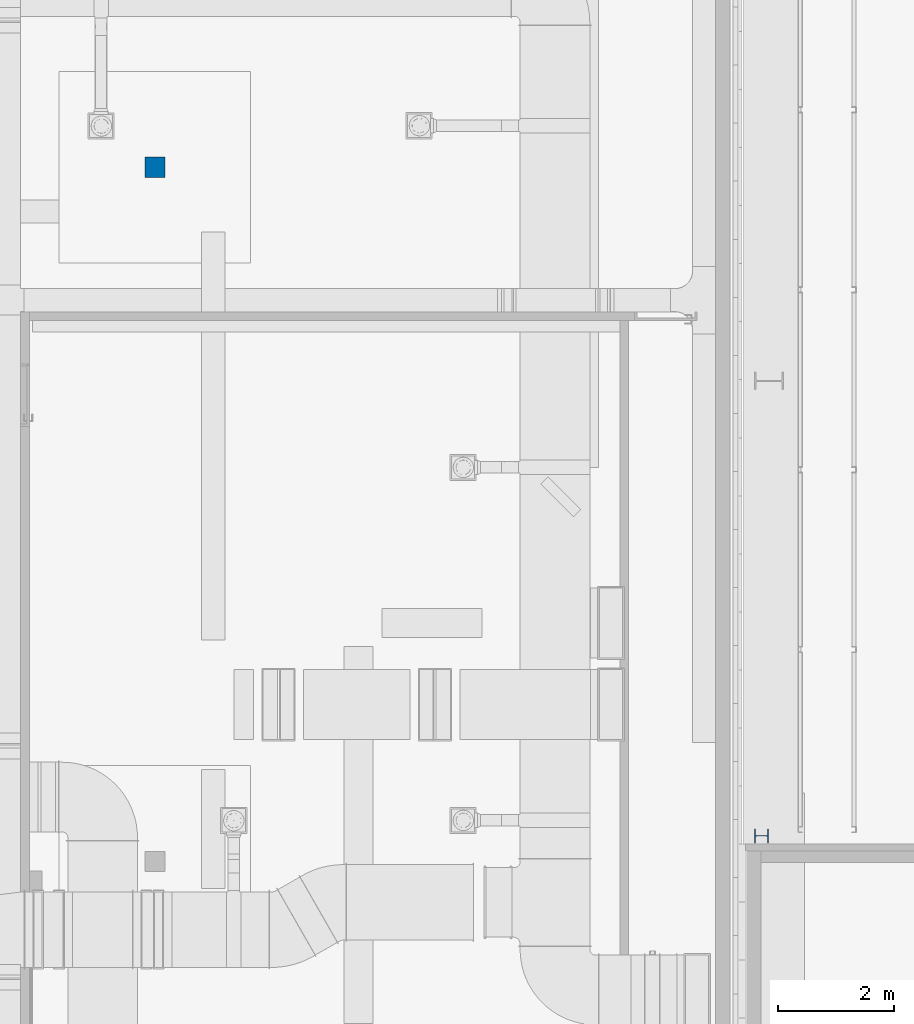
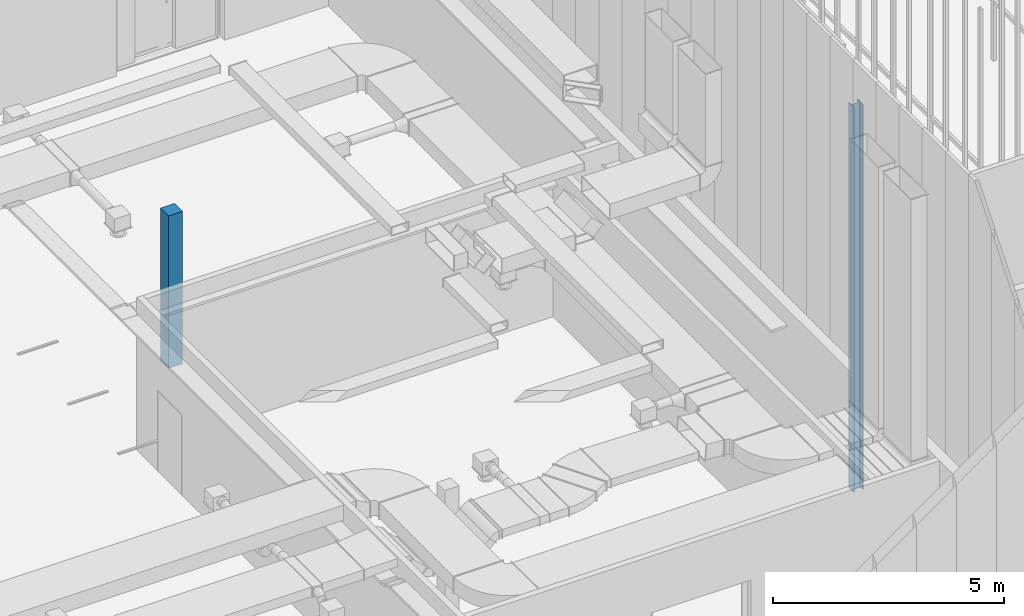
# One storey, part 5 of 302: 2 columns.
"""IFC2X3 building model written with IfcOpenShell, lengths in metres."""

from ifc_helpers import new_model, entity, si_unit, converted_unit, derived_unit, direction, frame, frame_2d, origin, origin_2d_with_axis, place, context, subcontext, project, spatial, polyline, circle_curve, parameter, trimmed, segment, composite_curve, rectangle, outline, extrude, source, transform, mapped, material, type_object, type_shapes, element, save


model = new_model("IFC2X3")

# Units and contexts
model_context = context("Model", 3, precision=1e-05, world=origin(), true_north=direction((6.12303176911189e-17, 1.0)))
body_context = subcontext(model_context, "Body", "Model", "MODEL_VIEW")
ifc_project = project(units=[si_unit("LENGTHUNIT", "METRE"), si_unit("AREAUNIT", "SQUARE_METRE"), si_unit("VOLUMEUNIT", "CUBIC_METRE"), converted_unit("PLANEANGLEUNIT", "DEGREE", entity("IfcRatioMeasure", 0.0174532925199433), si_unit("PLANEANGLEUNIT", "RADIAN"), dimensions=[0, 0, 0, 0, 0, 0, 0]), si_unit("MASSUNIT", "GRAM", prefix="KILO"), derived_unit("MASSDENSITYUNIT", [(si_unit("MASSUNIT", "GRAM", prefix="KILO"), 1), (si_unit("LENGTHUNIT", "METRE"), -3)]), derived_unit("MOMENTOFINERTIAUNIT", [(si_unit("LENGTHUNIT", "METRE"), 4)]), si_unit("TIMEUNIT", "SECOND"), si_unit("FREQUENCYUNIT", "HERTZ"), si_unit("THERMODYNAMICTEMPERATUREUNIT", "DEGREE_CELSIUS"), derived_unit("THERMALTRANSMITTANCEUNIT", [(si_unit("MASSUNIT", "GRAM", prefix="KILO"), 1), (si_unit("THERMODYNAMICTEMPERATUREUNIT", "KELVIN"), -1), (si_unit("TIMEUNIT", "SECOND"), -3)]), derived_unit("VOLUMETRICFLOWRATEUNIT", [(si_unit("LENGTHUNIT", "METRE"), 3), (si_unit("TIMEUNIT", "SECOND"), -1)]), si_unit("ELECTRICCURRENTUNIT", "AMPERE"), si_unit("ELECTRICVOLTAGEUNIT", "VOLT"), si_unit("POWERUNIT", "WATT"), si_unit("FORCEUNIT", "NEWTON", prefix="KILO"), si_unit("ILLUMINANCEUNIT", "LUX"), si_unit("LUMINOUSFLUXUNIT", "LUMEN"), si_unit("LUMINOUSINTENSITYUNIT", "CANDELA"), derived_unit("USERDEFINED", [(si_unit("MASSUNIT", "GRAM", prefix="KILO"), -1), (si_unit("LENGTHUNIT", "METRE"), -2), (si_unit("TIMEUNIT", "SECOND"), 3), (si_unit("LUMINOUSFLUXUNIT", "LUMEN"), 1)]), derived_unit("LINEARVELOCITYUNIT", [(si_unit("LENGTHUNIT", "METRE"), 1), (si_unit("TIMEUNIT", "SECOND"), -1)]), si_unit("PRESSUREUNIT", "PASCAL"), derived_unit("USERDEFINED", [(si_unit("LENGTHUNIT", "METRE"), -2), (si_unit("MASSUNIT", "GRAM", prefix="KILO"), 1), (si_unit("TIMEUNIT", "SECOND"), -2)]), derived_unit("LINEARFORCEUNIT", [(si_unit("MASSUNIT", "GRAM", prefix="KILO"), 1), (si_unit("LENGTHUNIT", "METRE"), 1), (si_unit("TIMEUNIT", "SECOND"), -2), (si_unit("LENGTHUNIT", "METRE"), -1)]), derived_unit("PLANARFORCEUNIT", [(si_unit("MASSUNIT", "GRAM", prefix="KILO"), 1), (si_unit("LENGTHUNIT", "METRE"), 1), (si_unit("TIMEUNIT", "SECOND"), -2), (si_unit("LENGTHUNIT", "METRE"), -2)])], contexts=[model_context])

# Site, building, storey
site_placement = place(None, origin())
site = spatial("IfcSite", under=ifc_project, at=site_placement, Name="Default", CompositionType="ELEMENT")
building_placement = place(site_placement, origin())
building = spatial("IfcBuilding", under=site, at=building_placement, CompositionType="ELEMENT")
storey_placement = place(building_placement, frame((0.0, 0.0, -1.3)))
storey = spatial("IfcBuildingStorey", under=building, at=storey_placement, Name="00_EG", CompositionType="ELEMENT", Elevation=-1.3)

# Columns
ifc_material_1 = material(Name="Ortbeton -Stütze")
column_type_1 = type_object("IfcColumnType", Name="STB Stütze - rechteckig:Stütze 350 x 350", PredefinedType="COLUMN", material=ifc_material_1)
shared_shape_1 = source(origin(), body_context, "Body", "SweptSolid", [
    extrude(rectangle(XDim=0.35, YDim=0.35, at=origin_2d_with_axis()), frame((0.0, 0.0, -0.0300000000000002), z_axis=(0.0, 0.0, 1.0), x_axis=(0.0, -1.0, 0.0)), (0.0, 0.0, 1.0), 4.03),
])
type_shapes(column_type_1, [shared_shape_1])
column_1_placement = place(storey_placement, frame((-217.572611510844, 35.408088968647, 1.3)))
element("IfcColumn", 1, at=column_1_placement, inside=storey, type_object=column_type_1, material=ifc_material_1, Name="STB Stütze - rechteckig:Stütze 350 x 350", ObjectType="STB Stütze - rechteckig:Stütze 350 x 350", context=body_context, shape_type="MappedRepresentation", body=[
    mapped(shared_shape_1, transform((0.0, 0.0, 0.0), scale=1.0)),
])
ifc_material_2 = material(Name="Metall - Baustahl S235")
column_type_2 = type_object("IfcColumnType", Name="HEB Stütze:HEB 240", PredefinedType="COLUMN", material=ifc_material_2)
shared_shape_2 = source(origin(), body_context, "Body", "SweptSolid", [
    extrude(outline(composite_curve([segment(polyline([(0.103, -0.12), (0.12, -0.12)]), True, "CONTINUOUS"), segment(polyline([(0.12, -0.12), (0.12, 0.12)]), True, "CONTINUOUS"), segment(polyline([(0.12, 0.12), (0.103, 0.12)]), True, "CONTINUOUS"), segment(polyline([(0.103, 0.12), (0.103, 0.0268)]), True, "CONTINUOUS"), segment(trimmed(circle_curve(frame_2d((0.0812, 0.0268), x_axis=(1.0, 0.0)), 0.0218), [parameter(269.999999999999)], [parameter(0.0)], True, "PARAMETER"), False, "CONTINUOUS"), segment(polyline([(0.0811999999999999, 0.005), (-0.0812, 0.005)]), True, "CONTINUOUS"), segment(trimmed(circle_curve(frame_2d((-0.0812, 0.0268), x_axis=(0.0, -1.0)), 0.0218), [parameter(270.0)], [parameter(0.0)], True, "PARAMETER"), False, "CONTINUOUS"), segment(polyline([(-0.103, 0.0268), (-0.103, 0.12)]), True, "CONTINUOUS"), segment(polyline([(-0.103, 0.12), (-0.12, 0.12)]), True, "CONTINUOUS"), segment(polyline([(-0.12, 0.12), (-0.12, -0.12)]), True, "CONTINUOUS"), segment(polyline([(-0.12, -0.12), (-0.103, -0.12)]), True, "CONTINUOUS"), segment(polyline([(-0.103, -0.12), (-0.103, -0.0268)]), True, "CONTINUOUS"), segment(trimmed(circle_curve(frame_2d((-0.0812, -0.0268), x_axis=(-1.0, 0.0)), 0.0218), [parameter(269.999999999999)], [parameter(0.0)], True, "PARAMETER"), False, "CONTINUOUS"), segment(polyline([(-0.0812, -0.00499999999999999), (0.0812, -0.00499999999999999)]), True, "CONTINUOUS"), segment(trimmed(circle_curve(frame_2d((0.0812, -0.0267999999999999), x_axis=(0.0, 1.0)), 0.0218), [parameter(269.999999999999)], [parameter(0.0)], True, "PARAMETER"), False, "CONTINUOUS"), segment(polyline([(0.103, -0.0268), (0.103, -0.12)]), True, "CONTINUOUS")], self_intersect=False)), frame((0.0, 0.0, -0.0300000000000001), z_axis=(0.0, 0.0, 1.0), x_axis=(0.0, -1.0, 0.0)), (0.0, 0.0, 1.0), 10.175),
])
type_shapes(column_type_2, [shared_shape_2])
column_2_placement = place(storey_placement, frame((-207.120111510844, 23.888088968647, 1.3), z_axis=(0.0, 0.0, 1.0), x_axis=(0.0, -1.0, 0.0)))
element("IfcColumn", 2, at=column_2_placement, inside=storey, type_object=column_type_2, material=ifc_material_2, Name="HEB Stütze:HEB 240", ObjectType="HEB Stütze:HEB 240", context=body_context, shape_type="MappedRepresentation", body=[
    mapped(shared_shape_2, transform((0.0, 0.0, 0.0), scale=1.0)),
])

save(model, "model.ifc")
